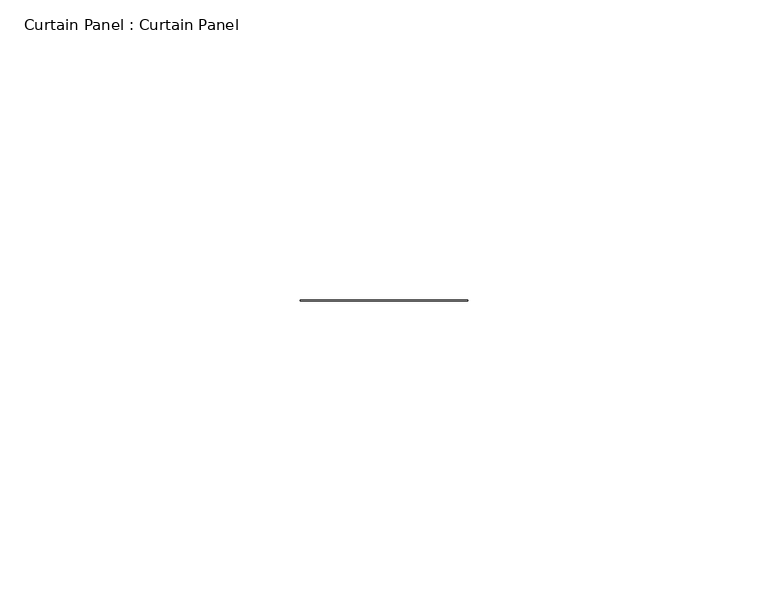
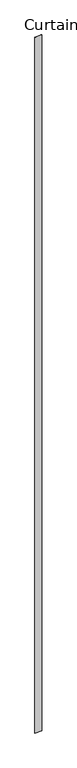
"""IFC4 building model written with IfcOpenShell, lengths in millimetres: plate geometry, Curtain Panel : Curtain Panel."""

from ifc_helpers import new_model, si_unit, frame, origin, place, context, project, spatial, polyline, outline, extrude, source, transform, mapped, element, save


def curtain_panel_curtain_panel_e2700ddb(model_context):
    return source(origin(), model_context, "Body", "SweptSolid", [
        extrude(outline(polyline([(-2016.0381903, -1015.275335), (-1988.2200328, -1015.275335), (-1988.2200328, -1015.4507404), (-2016.0381903, -1015.4507404), (-2016.0381903, -1015.275335)])), frame((0.0, 0.0, 1.3000189), z_axis=(0.0, 0.0, 1.0), x_axis=(1.0, 0.0, 0.0)), (0.0, 0.0, 1.0), 3046.6999811),
    ])


if __name__ == "__main__":
    model = new_model("IFC4")
    model_context = context("Model", 3, world=origin())
    ifc_project = project(units=[si_unit("LENGTHUNIT", "METRE", prefix="MILLI")], contexts=[model_context])
    site = spatial("IfcSite", under=ifc_project)
    building = spatial("IfcBuilding", under=site)
    placement = place(None, origin())
    curtain_panel_curtain_panel_shape = curtain_panel_curtain_panel_e2700ddb(model_context)
    element("IfcPlate", 1, ObjectType="Curtain Panel : Curtain Panel", at=placement, inside=building, context=model_context, shape_type="MappedRepresentation", body=[
        mapped(curtain_panel_curtain_panel_shape, transform((0.0, 0.0, 0.0), x_axis=(1.0, 0.0, 0.0), y_axis=(0.0, 1.0, 0.0), z_axis=(0.0, 0.0, 1.0))),
    ])
    save(model, "model.ifc")
